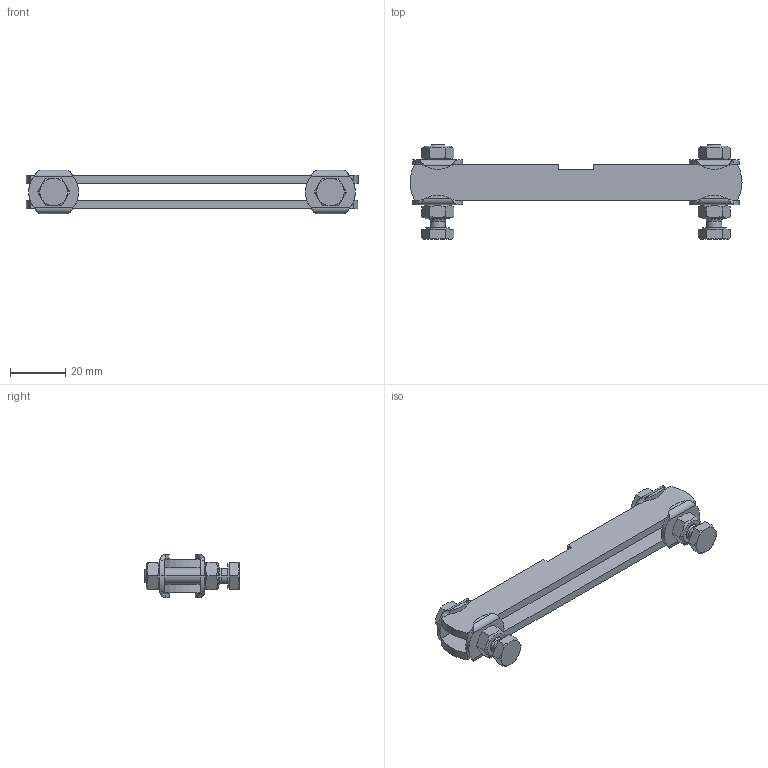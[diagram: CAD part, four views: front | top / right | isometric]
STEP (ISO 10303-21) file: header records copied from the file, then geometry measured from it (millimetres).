
FILE_DESCRIPTION((''),'2;1');
FILE_NAME('C:\DATA\VÝKRESY 2004\UPÍNKY\800 022\800 022.stp','2005-09-28T10:59:10',('Kysilko'),(''),'Autodesk Inventor 8','Autodesk Inventor 8','');
FILE_SCHEMA(('AUTOMOTIVE_DESIGN { 1 0 10303 214 1 1 1 1 }'));
Length unit declared in the file: millimetre
Products named in the file (1): Part18
Bounding box: 120 x 34 x 15.7 mm (x, y, z)
Volume: 13992.1 mm3; surface area: 11411.3 mm2
Topology: 1 solids, 1 shells, 242 faces, 620 edges, 384 vertices
Faces by surface type: plane 114, cylinder 68, cone 44, bspline 16
Entity records: 10027 total; most frequent: CARTESIAN_POINT 4351, ORIENTED_EDGE 1240, DIRECTION 1126, EDGE_CURVE 620, AXIS2_PLACEMENT_3D 415, VERTEX_POINT 384, VECTOR 296, LINE 296
